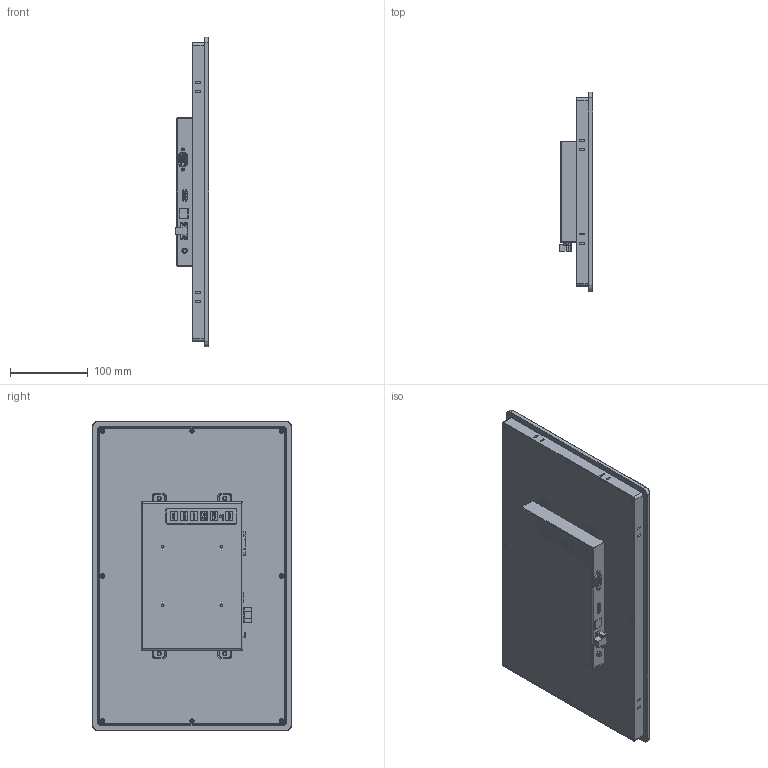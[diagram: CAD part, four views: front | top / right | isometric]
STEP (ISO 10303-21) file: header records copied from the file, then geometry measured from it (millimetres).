
FILE_DESCRIPTION((''),'2;1');
FILE_NAME('FPM-1506D-20241226','2025-08-01T19:27:00',('anthony'),(''),'CREO PARAMETRIC BY PTC INC, 2024063','CREO PARAMETRIC BY PTC INC, 2024063','');
FILE_SCHEMA(('CONFIG_CONTROL_DESIGN','SHAPE_APPEARANCE_LAYERS_GROUPS'));
Products named in the file (1): FPM-1506D-20241226
Bounding box: 42.69 x 255 x 397 mm (x, y, z)
Volume: 266656.7 mm3; surface area: 709389.2 mm2
Topology: 5 solids, 18 shells, 2526 faces, 6894 edges, 4485 vertices
Faces by surface type: plane 1726, cylinder 612, cone 98, torus 54, bspline 32, sphere 4
Entity records: 83124 total; most frequent: CARTESIAN_POINT 18848, ORIENTED_EDGE 13572, DIRECTION 12664, EDGE_CURVE 6890, VECTOR 5236, LINE 5236, VERTEX_POINT 4485, AXIS2_PLACEMENT_3D 3714
